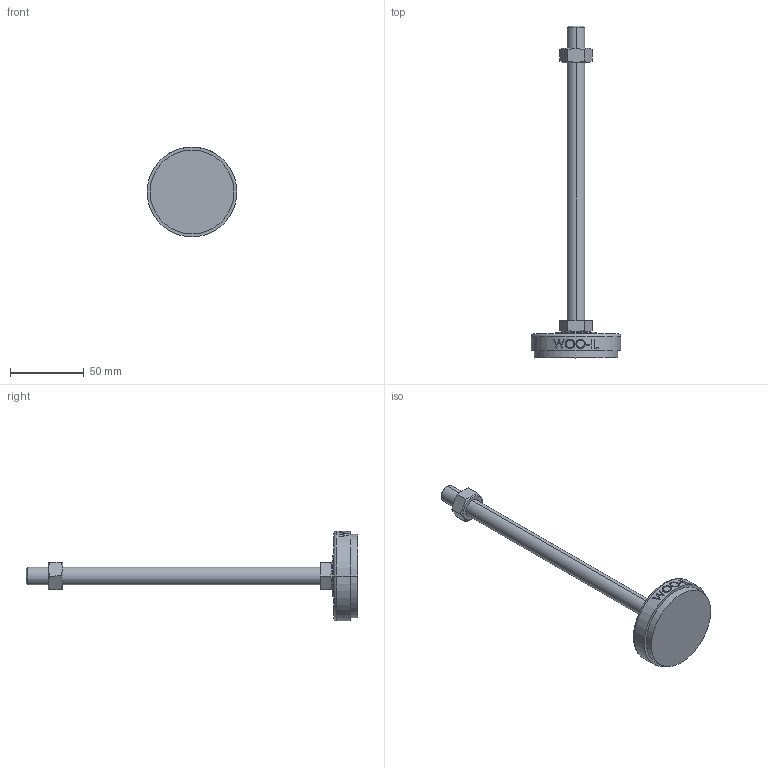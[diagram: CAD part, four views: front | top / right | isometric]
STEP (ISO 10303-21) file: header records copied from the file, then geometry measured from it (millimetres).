
FILE_DESCRIPTION (( 'STEP AP214' ), '1' );
FILE_NAME ('NS61-M12-200.step', '2021-01-11T05:45:01', ( '' ), ( '' ), 'SwSTEP 2.0', 'SolidWorks 2019', '' );
FILE_SCHEMA (( 'AUTOMOTIVE_DESIGN' ));
Length unit declared in the file: millimetre
Products named in the file (2): NS61-M12-200
Bounding box: 61 x 225.5 x 61 mm (x, y, z)
Volume: 73837.6 mm3; surface area: 18886.9 mm2
Topology: 3 solids, 3 shells, 96 faces, 223 edges, 144 vertices
Faces by surface type: plane 48, cylinder 18, bspline 16, cone 12, torus 2
Entity records: 4252 total; most frequent: CARTESIAN_POINT 2127, ORIENTED_EDGE 446, DIRECTION 381, EDGE_CURVE 223, VERTEX_POINT 144, AXIS2_PLACEMENT_3D 142, EDGE_LOOP 109, VECTOR 97
